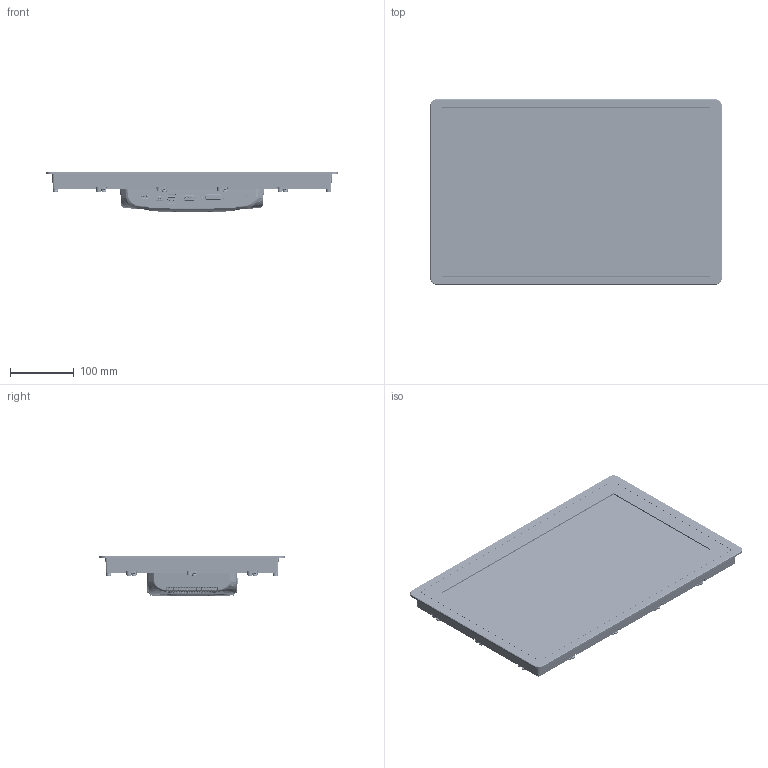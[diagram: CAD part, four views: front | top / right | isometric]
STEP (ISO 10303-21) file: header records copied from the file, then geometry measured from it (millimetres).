
FILE_DESCRIPTION(/* description */ (''),/* implementation_level */ '2;1');
FILE_NAME(/* name */ '17.3.stp',/* time_stamp */ '2026-03-11T16:27:22+08:00',/* author */ (''),/* organization */ (''),/* preprocessor_version */ 'ST-DEVELOPER v16',/* originating_system */ 'SIEMENS PLM Software NX 10.0',/* authorisation */ '');
FILE_SCHEMA (('AP203_CONFIGURATION_CONTROLLED_3D_DESIGN_OF_MECHANICAL_PARTS_AND_ASSEMBLIES_MIM_LF { 1 0 10303 403 2 1 2}'));
Products named in the file (1): Admi03F87D75pswm
Bounding box: 458 x 291 x 63.6 mm (x, y, z)
Volume: 1081585.4 mm3; surface area: 875465.1 mm2
Topology: 172 solids, 186 shells, 15654 faces, 38334 edges, 23215 vertices
Faces by surface type: plane 5581, cylinder 5484, bspline 2886, torus 968, cone 371, sphere 364
Full cylindrical faces by diameter (mm): 4.2 x4, 4.5 x1, 5.4 x4, 6 x14, 7 x14
Entity records: 602699 total; most frequent: CARTESIAN_POINT 268948, ORIENTED_EDGE 75990, DIRECTION 61094, EDGE_CURVE 37995, VERTEX_POINT 23175, AXIS2_PLACEMENT_3D 22018, LINE 17058, VECTOR 17058
